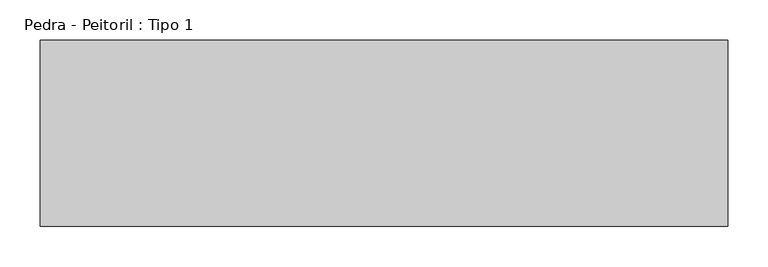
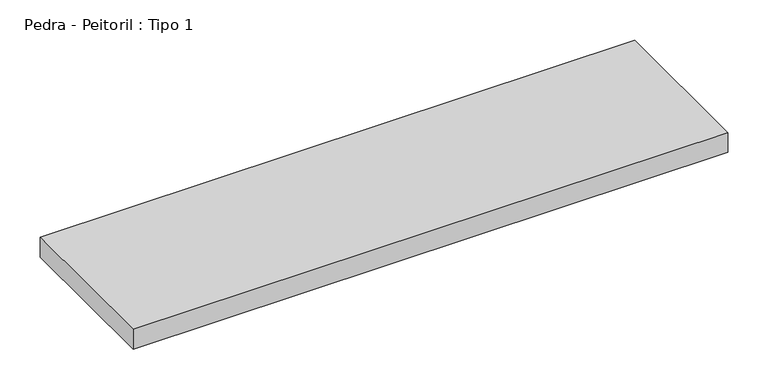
"""IFC4 building model written with IfcOpenShell, lengths in millimetres: furniture geometry, Pedra - Peitoril : Tipo 1."""

from ifc_helpers import new_model, si_unit, origin, origin_with_axes, place, context, project, spatial, polyline, outline, extrude, source, transform, mapped, element, save


def pedra_peitoril_tipo_1_7c079c32(model_context):
    return source(origin(), model_context, "Body", "SweptSolid", [
        extrude(outline(polyline([(-380.2996736, -230.0), (-380.2996736, 0.0), (469.7003264, 0.0), (469.7003264, -230.0), (-380.2996736, -230.0)])), origin_with_axes(), (0.0, 0.0, 1.0), 30.0),
    ])


if __name__ == "__main__":
    model = new_model("IFC4")
    model_context = context("Model", 3, world=origin())
    ifc_project = project(units=[si_unit("LENGTHUNIT", "METRE", prefix="MILLI")], contexts=[model_context])
    site = spatial("IfcSite", under=ifc_project)
    building = spatial("IfcBuilding", under=site)
    placement = place(None, origin())
    pedra_peitoril_tipo_1_shape = pedra_peitoril_tipo_1_7c079c32(model_context)
    element("IfcFurniture", 1, ObjectType="Pedra - Peitoril : Tipo 1", at=placement, inside=building, context=model_context, shape_type="MappedRepresentation", body=[
        mapped(pedra_peitoril_tipo_1_shape, transform((0.0, 0.0, 0.0), x_axis=(1.0, 0.0, 0.0), y_axis=(0.0, 1.0, 0.0), z_axis=(0.0, 0.0, 1.0))),
    ])
    save(model, "model.ifc")
